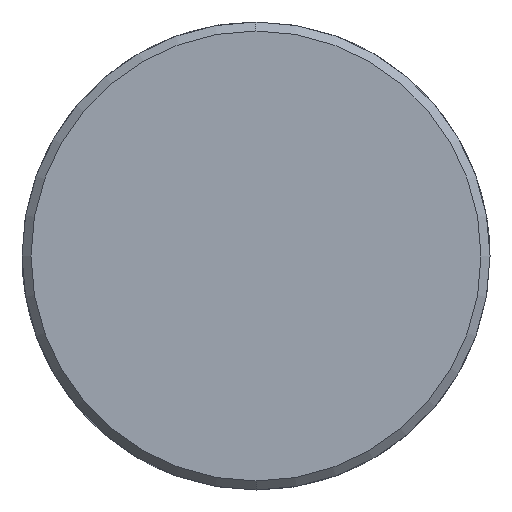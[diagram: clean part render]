
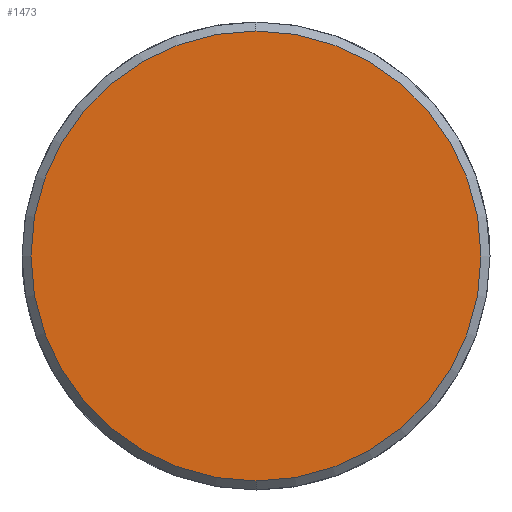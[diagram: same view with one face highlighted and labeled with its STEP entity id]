
A CAD part, left-side view. The second image highlights one B-rep face of the part: STEP entity #1473.
In plain terms, the highlighted planar face has unit normal (-1, 0, 0).
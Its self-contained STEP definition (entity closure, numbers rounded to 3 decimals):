
#1405=CARTESIAN_POINT('Vertex',(-8.,0.,-25.)) ;
#1408=CARTESIAN_POINT('Axis2P3D Location',(-8.,0.,0.)) ;
#1412=CARTESIAN_POINT('Vertex',(-8.,25.,0.)) ;
#1415=CARTESIAN_POINT('Axis2P3D Location',(-8.,0.,0.)) ;
#1419=CARTESIAN_POINT('Vertex',(-8.,0.,25.)) ;
#1441=CARTESIAN_POINT('Axis2P3D Location',(-8.,0.,0.)) ;
#1445=CARTESIAN_POINT('Vertex',(-8.,-25.,0.)) ;
#1448=CARTESIAN_POINT('Axis2P3D Location',(-8.,0.,0.)) ;
#1462=CARTESIAN_POINT('Axis2P3D Location',(-8.,0.,0.)) ;
#1409=DIRECTION('Axis2P3D Direction',(1.,0.,-0.)) ;
#1416=DIRECTION('Axis2P3D Direction',(1.,0.,-0.)) ;
#1442=DIRECTION('Axis2P3D Direction',(1.,0.,-0.)) ;
#1449=DIRECTION('Axis2P3D Direction',(1.,0.,-0.)) ;
#1463=DIRECTION('Axis2P3D Direction',(1.,0.,-0.)) ;
#1464=DIRECTION('Axis2P3D XDirection',(-0.,0.,-1.)) ;
#1410=AXIS2_PLACEMENT_3D('Circle Axis2P3D',#1408,#1409,$) ;
#1417=AXIS2_PLACEMENT_3D('Circle Axis2P3D',#1415,#1416,$) ;
#1443=AXIS2_PLACEMENT_3D('Circle Axis2P3D',#1441,#1442,$) ;
#1450=AXIS2_PLACEMENT_3D('Circle Axis2P3D',#1448,#1449,$) ;
#1465=AXIS2_PLACEMENT_3D('Plane Axis2P3D',#1462,#1463,#1464) ;
#1468=ORIENTED_EDGE('',*,*,#1414,.F.) ;
#1469=ORIENTED_EDGE('',*,*,#1452,.F.) ;
#1470=ORIENTED_EDGE('',*,*,#1447,.F.) ;
#1471=ORIENTED_EDGE('',*,*,#1421,.F.) ;
#1473=ADVANCED_FACE('351-40X46X200',(#1472),#1466,.F.) ;
#1411=CIRCLE('generated circle',#1410,25.) ;
#1418=CIRCLE('generated circle',#1417,25.) ;
#1444=CIRCLE('generated circle',#1443,25.) ;
#1451=CIRCLE('generated circle',#1450,25.) ;
#1414=EDGE_CURVE('',#1406,#1413,#1411,.T.) ;
#1421=EDGE_CURVE('',#1413,#1420,#1418,.T.) ;
#1447=EDGE_CURVE('',#1420,#1446,#1444,.T.) ;
#1452=EDGE_CURVE('',#1446,#1406,#1451,.T.) ;
#1467=EDGE_LOOP('',(#1468,#1469,#1470,#1471)) ;
#1472=FACE_OUTER_BOUND('',#1467,.T.) ;
#1466=PLANE('Plane',#1465) ;
#1406=VERTEX_POINT('',#1405) ;
#1413=VERTEX_POINT('',#1412) ;
#1420=VERTEX_POINT('',#1419) ;
#1446=VERTEX_POINT('',#1445) ;
